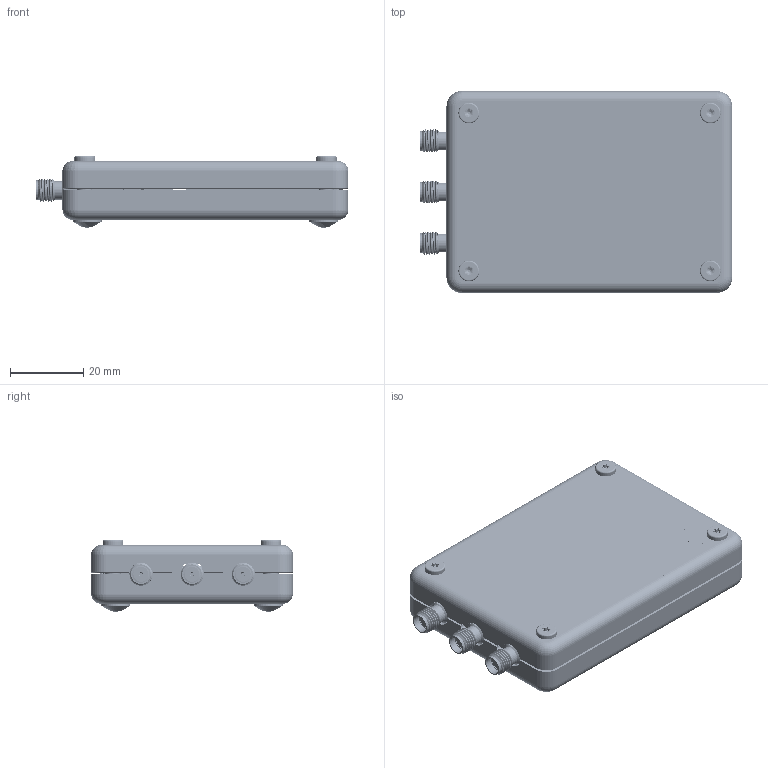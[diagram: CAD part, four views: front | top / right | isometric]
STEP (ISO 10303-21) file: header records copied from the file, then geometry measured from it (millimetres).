
FILE_DESCRIPTION(('Creo Elements/Direct Modeling STEP Export'),'2;1');
FILE_NAME('B200mini.stp','2018-10-01T20:17:39',(''),(''),'PTC Creo Elements/Direct Modeling STEP processor for AP214 (Solid Model)','PTC Creo Elements/Direct Modeling 19.0E 27-Jun-2016 (C) Parametric Technology GmbH','');
FILE_SCHEMA(('AUTOMOTIVE_DESIGN { 1 0 10303 214 1 1 1 1 }'));
Length unit declared in the file: millimetre
Products named in the file (76): .ALN1; R19; LD3; C98; C91; 0402-TVS; C114; D7; R44; F6; U8; F12; TI-SON-8; U14; F8; C92; U25; U10; U4; U2; R12; L6; L3; VISHAY-IHLP; C246; C16; U16; RCLAMP0524P; GSB343K33HR; FBGA-121-FX3; CS(G)484-XC6SLX75; BC-144-7-AD9364; R40; MSOP-8; REGULATION_ESD; REGULATION_WEEE; DB1627; SOT-323; 0805-NF; SOT-26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
Assembly tree (498 placements, depth 6):
  B200mini_USRP_enclosure-assy
    screw-M3x14mmL-T8-low-wafer-head-blk-oxide.1  x4
    foot_adh-Blk-.312inDia-.085h_BS-27_bumper-specialties.1.1  x4
    Label_Product_L00340A-01.1
    round-shim-.125id_.1875od_.010thk_MEI.3  x4
    bottom-plateUSRP-B200mini.1
      standoff-M3_6.35mmL-thru_DSO-M3-6.35ZI.1  x4
      bottom_plateUSRP-B200mini
    top-plateUSRP_B200mini
      top-plateUSRP-B200mini.1
        standoff-unthreaded-8mmL_SO-43.1-8ZI  x4
        top_plateUSRP-B200mini
      silkscreen-B200mini
    cca-usrp-B200mini-1x1-70MHz-6GHZ
      usb-3.0_micro-b_rcpt-ra_Amphenol_GSB343K33AHR
        contact1  x10
        internal-dielectric
        housing
      switch-side-push_mid-mnt_SKSNLAE010_Alps
      pcb-159036C-01usrp1x1
      conn-sm-ra-12pos-1.25pitch_TE-conn_1-1734261-2.2.1  x2
      conn-sma-jack-launch-pcb_142-0771-821_Cinch.4  x3
        cntr_cond
        013-1686-482
        032-0772-591
        013-1687-092
      idf-argon-usrp1x1-70mhz-6ghz
        159036b.pcb
          PARTS
            C98  x60
            R19  x71
            R60
            C91  x146
            F6  x14
            U11  x3
            R44  x9
            R43
            X2
            C92  x30
            F8  x3
            C246  x8
            LD1  x2
            U8  x2
            U25  x4
            VISHAY-IHLP  x4
            C114  x5
            CTS-520
            SON-6-DRY
            SOT-323  x3
            C16  x12
            SOT-26
            0805-NF
            DB1627  x2
            R12  x4
            REGULATION_WEEE
            REGULATION_ESD
            MSOP-8
            R40
            .ALN1  x11
            BC-144-7-AD9364
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Bounding box: 85.48 x 55.19 x 19.54 mm (x, y, z)
Volume: 22786 mm3; surface area: 50863.8 mm2
Topology: 492 solids, 492 shells, 10903 faces, 31053 edges, 21463 vertices
Faces by surface type: plane 9158, cylinder 1448, cone 161, bspline 63, torus 40, sphere 17, extrusion 8, revolution 8
Entity records: 172411 total; most frequent: CARTESIAN_POINT 52651, ORIENTED_EDGE 23990, DIRECTION 19426, EDGE_CURVE 11973, VECTOR 9828, LINE 9826, VERTEX_POINT 8799, AXIS2_PLACEMENT_3D 4798
